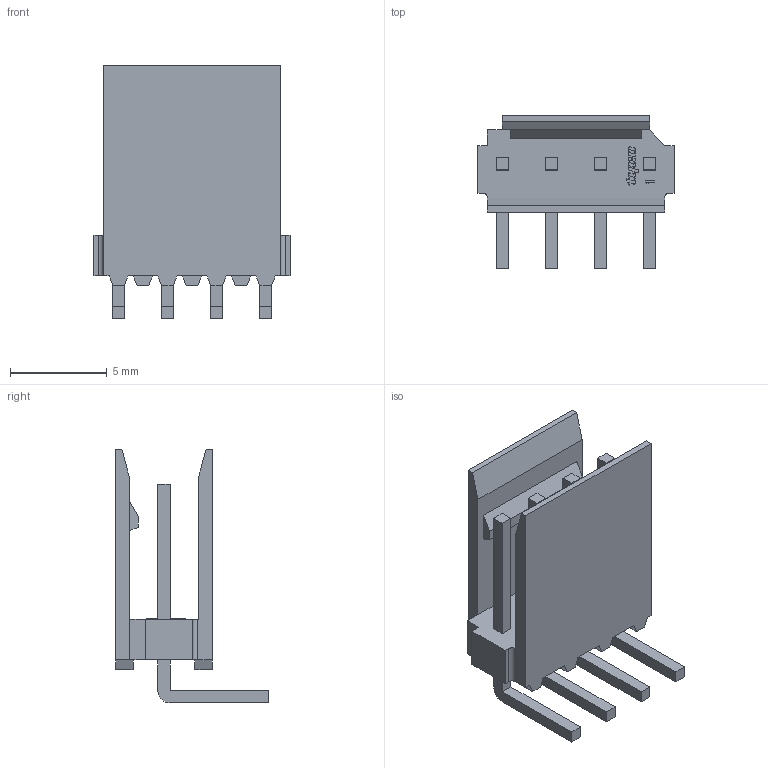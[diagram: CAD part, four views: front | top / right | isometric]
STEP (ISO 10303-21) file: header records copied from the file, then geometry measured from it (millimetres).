
FILE_DESCRIPTION(('STEP AP242'),'1');
FILE_NAME('17r9214_281698-4.stp','2019-03-10T23:11:14',('TraceParts'),('TraceParts S.A.'),'Spatial InterOp 3D',' ',' ');
FILE_SCHEMA(('AP242_MANAGED_MODEL_BASED_3D_ENGINEERING_MIM_LF {1 0 10303 442 1 1 4}'));
Length unit declared in the file: millimetre
Products named in the file (1): 17r9214_281698-4
Bounding box: 10.16 x 7.9 x 13.12 mm (x, y, z)
Volume: 228.9 mm3; surface area: 627.6 mm2
Topology: 1 solids, 1 shells, 205 faces, 562 edges, 374 vertices
Faces by surface type: plane 161, cylinder 44
Entity records: 6463 total; most frequent: CARTESIAN_POINT 1142, ORIENTED_EDGE 1124, DIRECTION 1062, EDGE_CURVE 562, LINE 474, VECTOR 474, VERTEX_POINT 374, AXIS2_PLACEMENT_3D 294
